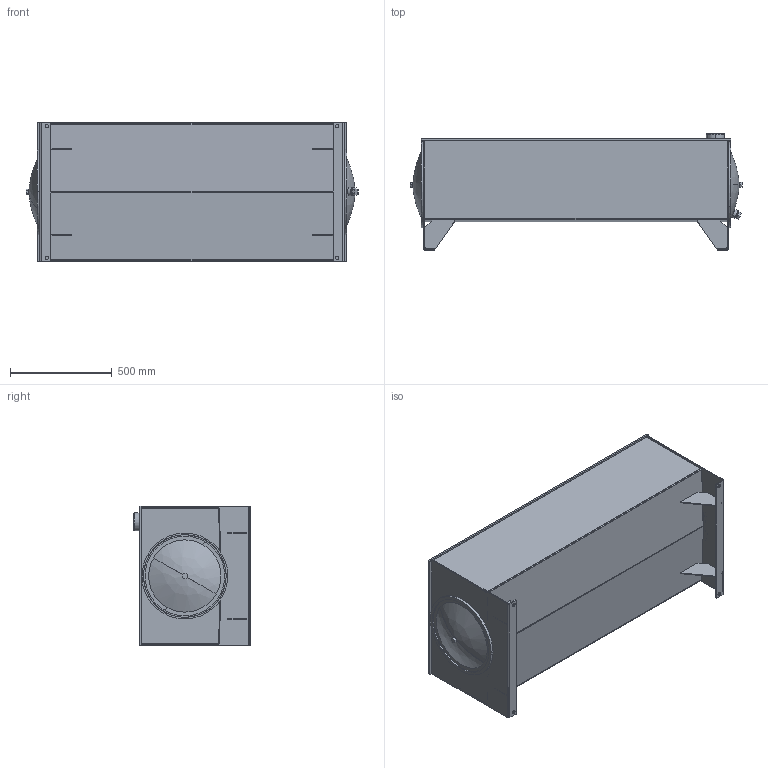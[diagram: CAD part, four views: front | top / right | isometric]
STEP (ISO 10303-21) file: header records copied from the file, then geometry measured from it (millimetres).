
FILE_DESCRIPTION (( 'STEP AP214' ), '1' );
FILE_NAME ('T1-80.STEP', '2014-08-25T15:07:24', ( 'User' ), ( '' ), 'SwSTEP 2.0', 'SolidWorks 2013', '' );
FILE_SCHEMA (( 'AUTOMOTIVE_DESIGN' ));
Length unit declared in the file: inch
Products named in the file (17): T1-80-BDY; 16.00 END COVER; T1-80-LD; DRAIN; T1-80; TL-ECD-16; T1-80-EA; 16.00 END COVER WITH DRAIN; T1-80-EB; 0.625 - 11 BAFFLE NUT; 0.625 - 11 HEX BOLT; TL-EC-16; CRUSH WASHER; 16.00 GASKET; FILLER RISER; T1-80-GST; T1-80-BFL
Assembly tree (23 placements, depth 3):
  T1-80
    T1-80-LD
    T1-80-EA
    T1-80-EB
    T1-80-BDY
    T1-80-BFL
    T1-80-GST  x4
    FILLER RISER
    TL-ECD-16
      16.00 GASKET
      CRUSH WASHER
      0.625 - 11 HEX BOLT
      0.625 - 11 BAFFLE NUT
      16.00 END COVER WITH DRAIN
      DRAIN
    TL-EC-16
      16.00 END COVER
      16.00 GASKET
      CRUSH WASHER
      0.625 - 11 HEX BOLT
      0.625 - 11 BAFFLE NUT
Bounding box: 1633.2 x 571.5 x 685.8 mm (x, y, z)
Volume: 23889240.8 mm3; surface area: 9715632.4 mm2
Topology: 22 solids, 22 shells, 294 faces, 676 edges, 434 vertices
Faces by surface type: plane 165, cylinder 109, cone 10, bspline 8, torus 2
Entity records: 8553 total; most frequent: CARTESIAN_POINT 1469, DIRECTION 1242, ORIENTED_EDGE 1076, EDGE_CURVE 538, AXIS2_PLACEMENT_3D 465, VERTEX_POINT 342, LINE 312, VECTOR 312
